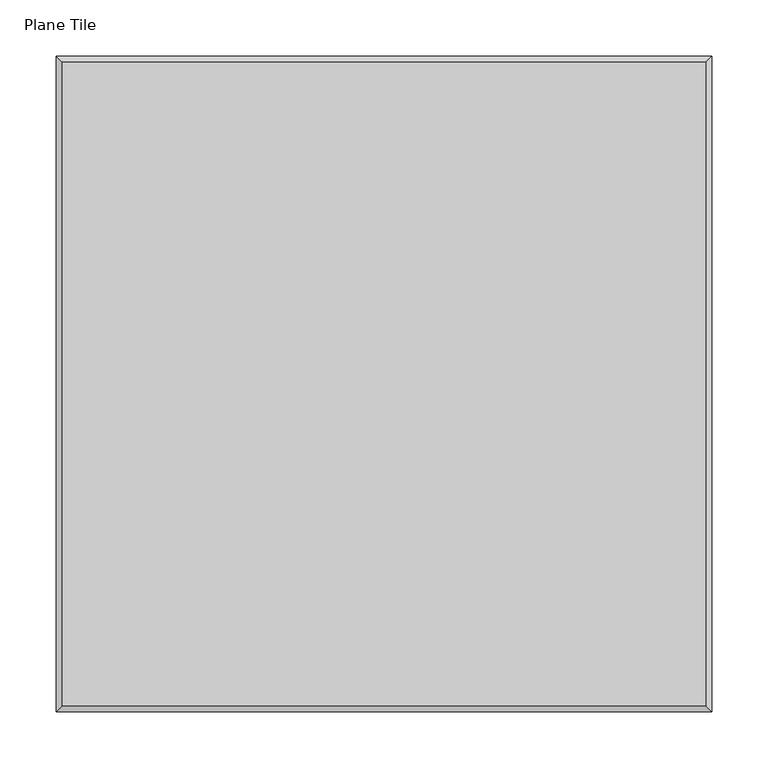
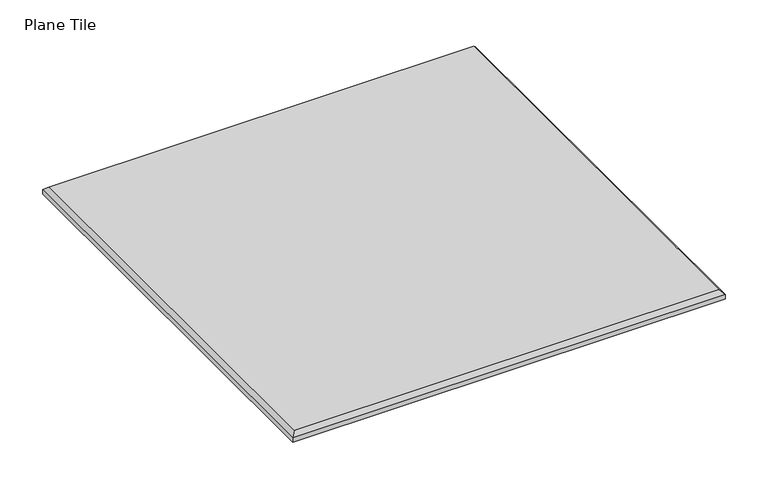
"""IFC4 building model written with IfcOpenShell, lengths in millimetres: proxy geometry, Wall-Panel-Kirei-EchoPanel-Echotile-Racetrack : Plane Tile."""

from ifc_helpers import new_model, si_unit, origin, place, context, project, spatial, faceted_brep, source, transform, mapped, element, save


def plane_tile_17eb35c2(model_context):
    return source(origin(), model_context, "Body", "Brep", [
        faceted_brep([(-30.9054687, -286.5945313, 12.0054687), (-30.9054687, 286.5945312, 12.0054687), (-604.0945312, 286.5945312, 12.0054687), (-604.0945312, -286.5945313, 12.0054687), (-25.4, 292.1, 0.0), (-25.4, -292.1, 0.0), (-609.6, -292.1, 0.0), (-609.6, 292.1, 0.0), (-609.6, 292.1, 6.5), (-25.4, 292.1, 6.5), (-609.6, -292.1, 6.5), (-25.4, -292.1, 6.5)], [[[0, 1, 2, 3]], [[4, 5, 6, 7]], [[4, 7, 8, 9]], [[7, 6, 10, 8]], [[6, 5, 11, 10]], [[5, 4, 9, 11]], [[9, 1, 0, 11]], [[1, 9, 8, 2]], [[2, 8, 10, 3]], [[11, 0, 3, 10]]]),
    ])


if __name__ == "__main__":
    model = new_model("IFC4")
    model_context = context("Model", 3, world=origin())
    ifc_project = project(units=[si_unit("LENGTHUNIT", "METRE", prefix="MILLI")], contexts=[model_context])
    site = spatial("IfcSite", under=ifc_project)
    building = spatial("IfcBuilding", under=site)
    placement = place(None, origin())
    plane_tile_shape = plane_tile_17eb35c2(model_context)
    element("IfcBuildingElementProxy", 1, Name="Wall-Panel-Kirei-EchoPanel-Echotile-Racetrack : Plane Tile", ObjectType="Wall-Panel-Kirei-EchoPanel-Echotile-Racetrack : Plane Tile", at=placement, inside=building, context=model_context, shape_type="MappedRepresentation", body=[
        mapped(plane_tile_shape, transform((0.0, 0.0, 0.0), x_axis=(1.0, 0.0, 0.0), y_axis=(0.0, 1.0, 0.0), z_axis=(0.0, 0.0, 1.0))),
    ])
    save(model, "model.ifc")
